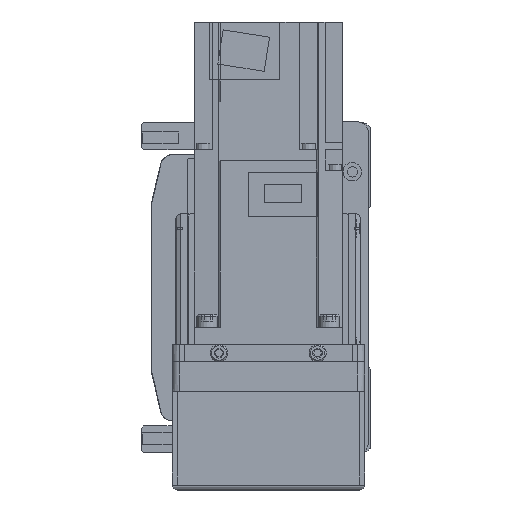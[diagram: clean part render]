
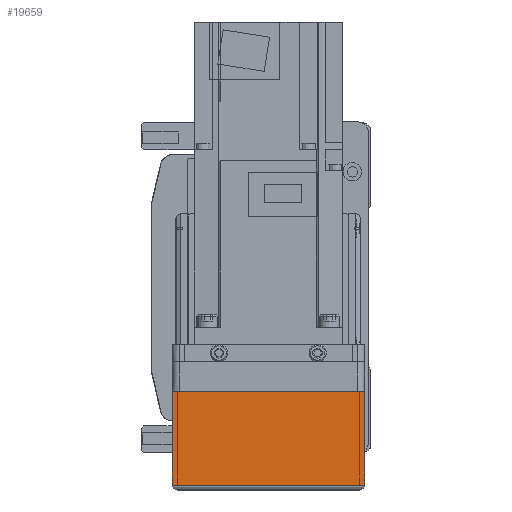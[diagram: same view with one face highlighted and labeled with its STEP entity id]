
A CAD part, left-side view. The second image highlights one B-rep face of the part: STEP entity #19659.
In plain terms, the highlighted planar face has unit normal (-1, 0, 0).
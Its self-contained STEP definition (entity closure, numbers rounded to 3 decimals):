
#2900=ORIENTED_EDGE('',*,*,#7893,.F.);
#2901=ORIENTED_EDGE('',*,*,#7894,.F.);
#2902=ORIENTED_EDGE('',*,*,#7895,.T.);
#2903=ORIENTED_EDGE('',*,*,#7896,.F.);
#7893=EDGE_CURVE('',#10488,#10479,#12521,.T.);
#7894=EDGE_CURVE('',#10505,#10488,#12522,.T.);
#7895=EDGE_CURVE('',#10505,#10506,#12523,.T.);
#7896=EDGE_CURVE('',#10479,#10506,#12524,.T.);
#10479=VERTEX_POINT('',#30128);
#10488=VERTEX_POINT('',#30146);
#10505=VERTEX_POINT('',#30194);
#10506=VERTEX_POINT('',#30196);
#12521=LINE('',#30192,#14241);
#12522=LINE('',#30193,#14242);
#12523=LINE('',#30195,#14243);
#12524=LINE('',#30197,#14244);
#14241=VECTOR('',#24157,1000.);
#14242=VECTOR('',#24158,1000.);
#14243=VECTOR('',#24159,1000.);
#14244=VECTOR('',#24160,1000.);
#15793=EDGE_LOOP('',(#2900,#2901,#2902,#2903));
#17413=FACE_BOUND('',#15793,.T.);
#18874=PLANE('',#21061);
#19659=ADVANCED_FACE('',(#17413),#18874,.F.);
#21061=AXIS2_PLACEMENT_3D('',#30191,#24155,#24156);
#24155=DIRECTION('',(1.,0.,0.));
#24156=DIRECTION('',(0.,0.,-1.));
#24157=DIRECTION('',(0.,-1.,0.));
#24158=DIRECTION('',(0.,0.,1.));
#24159=DIRECTION('',(0.,-1.,0.));
#24160=DIRECTION('',(0.,0.,-1.));
#30128=CARTESIAN_POINT('',(-158.,-39.,-12.1));
#30146=CARTESIAN_POINT('',(-158.,39.,-12.1));
#30191=CARTESIAN_POINT('',(-158.,36.,7.));
#30192=CARTESIAN_POINT('',(-158.,50.,-12.1));
#30193=CARTESIAN_POINT('',(-158.,39.,-50.));
#30194=CARTESIAN_POINT('',(-158.,39.,-50.));
#30195=CARTESIAN_POINT('',(-158.,40.,-50.));
#30196=CARTESIAN_POINT('',(-158.,-39.,-50.));
#30197=CARTESIAN_POINT('',(-158.,-39.,-12.1));
